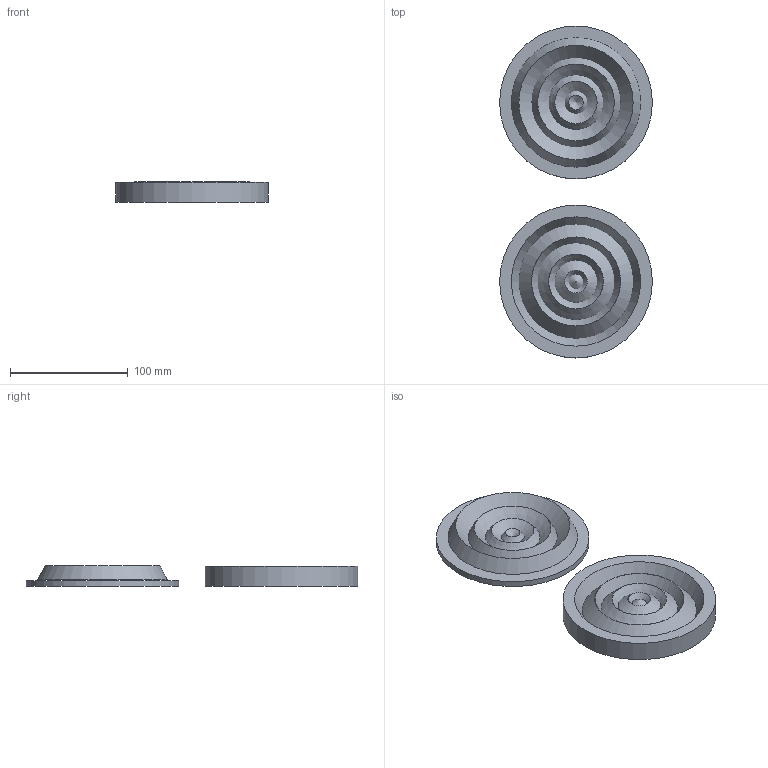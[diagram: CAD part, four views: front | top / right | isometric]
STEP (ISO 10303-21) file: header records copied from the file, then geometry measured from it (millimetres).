
FILE_DESCRIPTION(('FreeCAD Model'),'2;1');
FILE_NAME('Open CASCADE Shape Model','2025-04-11T18:25:51',(''),(''), 'Open CASCADE STEP processor 7.6','FreeCAD','Unknown');
FILE_SCHEMA(('AUTOMOTIVE_DESIGN { 1 0 10303 214 1 1 1 1 }'));
Length unit declared in the file: millimetre
Products named in the file (3): roundleathermold; Fusion; Cut
Assembly tree (2 placements, depth 2):
  roundleathermold
    Fusion
    Cut
Bounding box: 130 x 282.3 x 17.67 mm (x, y, z)
Volume: 292541.8 mm3; surface area: 93738.8 mm2
Topology: 3 solids, 3 shells, 27 faces, 43 edges, 25 vertices
Faces by surface type: cone 16, plane 9, cylinder 2
Full cylindrical faces by diameter (mm): 130 x2
Entity records: 1239 total; most frequent: DIRECTION 206, CARTESIAN_POINT 205, LINE 89, VECTOR 89, ORIENTED_EDGE 84, PCURVE 84, DEFINITIONAL_REPRESENTATION 84, AXIS2_PLACEMENT_3D 54
